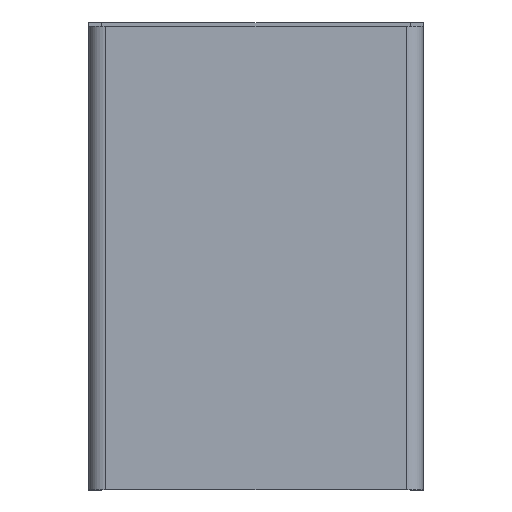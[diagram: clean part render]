
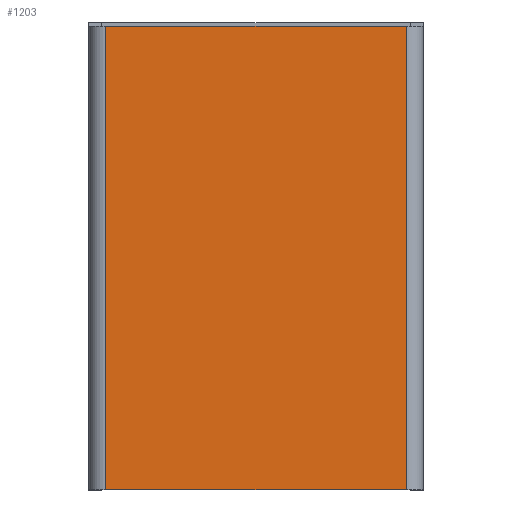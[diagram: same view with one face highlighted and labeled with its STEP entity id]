
A CAD part, top view. The second image highlights one B-rep face of the part: STEP entity #1203.
In plain terms, the highlighted planar face has unit normal (0, 0, 1).
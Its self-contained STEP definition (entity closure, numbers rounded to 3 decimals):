
#1123 = EDGE_CURVE('',#1124,#1126,#1128,.T.);
#1124 = VERTEX_POINT('',#1125);
#1125 = CARTESIAN_POINT('',(176.5,-275.,
    232.));
#1126 = VERTEX_POINT('',#1127);
#1127 = CARTESIAN_POINT('',(-176.5,-275.,
    232.));
#1128 = LINE('',#1129,#1130);
#1129 = CARTESIAN_POINT('',(176.5,-275.,
    232.));
#1130 = VECTOR('',#1131,1.);
#1131 = DIRECTION('',(-1.,0.,0.));
#1166 = VERTEX_POINT('',#1167);
#1167 = CARTESIAN_POINT('',(176.5,270.,232.));
#1185 = VERTEX_POINT('',#1186);
#1186 = CARTESIAN_POINT('',(-176.5,270.,232.));
#1193 = EDGE_CURVE('',#1185,#1166,#1194,.T.);
#1194 = LINE('',#1195,#1196);
#1195 = CARTESIAN_POINT('',(-176.5,270.,232.));
#1196 = VECTOR('',#1197,1.);
#1197 = DIRECTION('',(1.,0.,0.));
#1203 = ADVANCED_FACE('',(#1204),#1220,.T.);
#1204 = FACE_BOUND('',#1205,.T.);
#1205 = EDGE_LOOP('',(#1206,#1207,#1213,#1214));
#1206 = ORIENTED_EDGE('',*,*,#1123,.F.);
#1207 = ORIENTED_EDGE('',*,*,#1208,.T.);
#1208 = EDGE_CURVE('',#1124,#1166,#1209,.T.);
#1209 = LINE('',#1210,#1211);
#1210 = CARTESIAN_POINT('',(176.5,-275.,
    232.));
#1211 = VECTOR('',#1212,1.);
#1212 = DIRECTION('',(0.,1.,0.));
#1213 = ORIENTED_EDGE('',*,*,#1193,.F.);
#1214 = ORIENTED_EDGE('',*,*,#1215,.T.);
#1215 = EDGE_CURVE('',#1185,#1126,#1216,.T.);
#1216 = LINE('',#1217,#1218);
#1217 = CARTESIAN_POINT('',(-176.5,-275.,
    232.));
#1218 = VECTOR('',#1219,1.);
#1219 = DIRECTION('',(0.,-1.,0.));
#1220 = PLANE('',#1221);
#1221 = AXIS2_PLACEMENT_3D('',#1222,#1223,#1224);
#1222 = CARTESIAN_POINT('',(176.5,-275.,
    232.));
#1223 = DIRECTION('',(0.,0.,1.));
#1224 = DIRECTION('',(0.,1.,0.));
